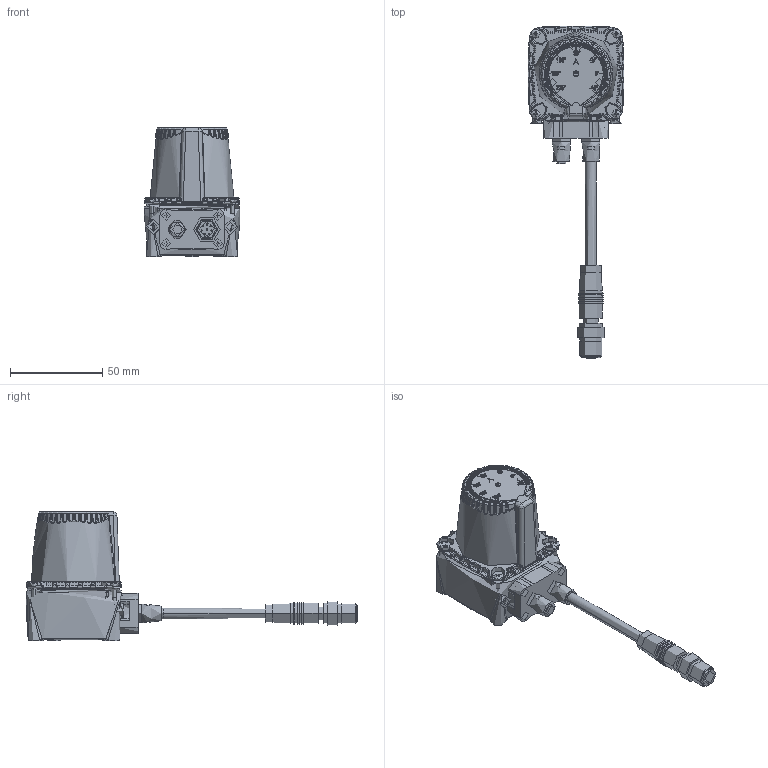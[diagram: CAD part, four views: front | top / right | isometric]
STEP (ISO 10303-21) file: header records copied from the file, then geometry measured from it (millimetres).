
FILE_DESCRIPTION(/* description */ (''),/* implementation_level */ '2;1');
FILE_NAME(/* name */ 'YB27-15CR.stp',/* time_stamp */ '2024-08-14T10:37:21+08:00',/* author */ (''),/* organization */ (''),/* preprocessor_version */ 'ST-DEVELOPER v14',/* originating_system */ 'SIEMENS PLM Software NX 8.0',/* authorisation */ '');
FILE_SCHEMA (('AUTOMOTIVE_DESIGN { 1 0 10303 214 3 1 1 1 }'));
Products named in the file (1): YB27-15CR
Bounding box: 52.04 x 180.37 x 70.1 mm (x, y, z)
Volume: 48210.1 mm3; surface area: 45343.4 mm2
Topology: 11 solids, 13 shells, 5269 faces, 13553 edges, 8653 vertices
Faces by surface type: plane 3042, bspline 1349, cylinder 472, cone 187, torus 112, sphere 80, extrusion 27
Full cylindrical faces by diameter (mm): 1.35 x6, 1.7 x2, 1.8 x6, 2 x4, 2.06 x1, 2.38 x4, 2.5 x4, 3 x1, 3.1 x3, 3.2 x1, 3.4 x2, 3.5 x2, 4.2 x4, 4.5 x4, 4.8 x6, 5 x4, 5.1 x4, 7.9 x2, 8 x1, 10 x2
Entity records: 267352 total; most frequent: CARTESIAN_POINT 149722, ORIENTED_EDGE 26600, DIRECTION 17673, EDGE_CURVE 13300, VERTEX_POINT 8604, AXIS2_PLACEMENT_3D 5966, EDGE_LOOP 5848, VECTOR 5741
